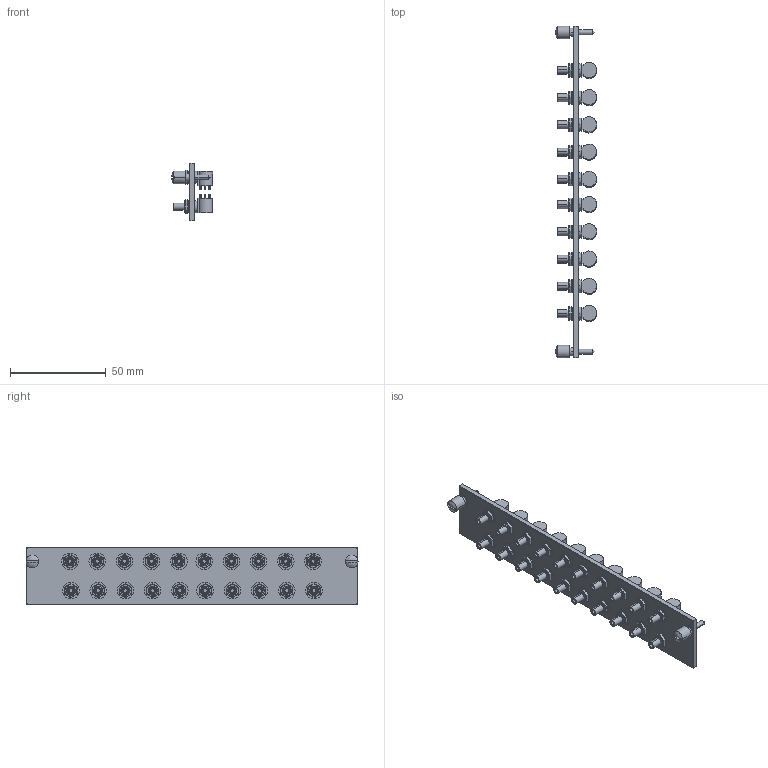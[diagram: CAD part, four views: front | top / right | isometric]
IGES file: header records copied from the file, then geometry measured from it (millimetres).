
Start section:  PTC IGES file: cu_scxi-1191.igs
Global section: file name: cu_scxi-1191.igs; native system: Pro/ENGINEER by Parametric Technology Corporation; preprocessor: 2010230; author: jjorden; organization: Unknown; date: 20110815.150638; units: inch
Bounding box: 21.47 x 173.48 x 30.18 mm (x, y, z)
Surface area: 24857.4 mm2 (no closed solid volume)
Topology: 0 solids, 0 shells, 1377 faces, 6676 edges, 6672 vertices
Faces by surface type: bspline 903, revolution 474
